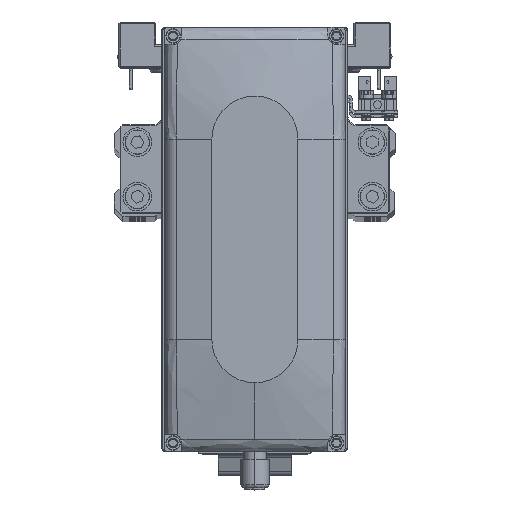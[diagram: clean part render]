
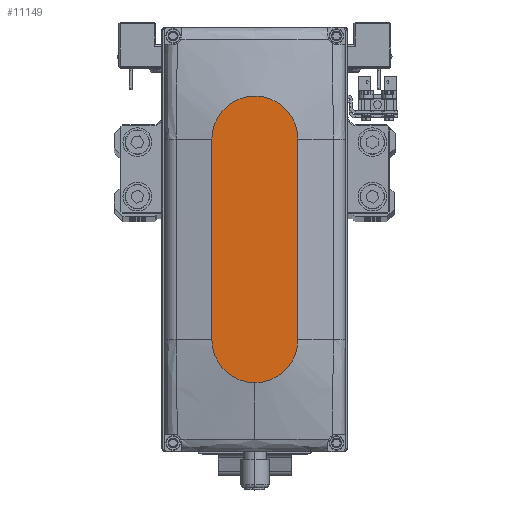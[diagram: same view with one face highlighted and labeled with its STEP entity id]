
A CAD part, top view. The second image highlights one B-rep face of the part: STEP entity #11149.
In plain terms, the highlighted planar face has unit normal (0, 0, 1).
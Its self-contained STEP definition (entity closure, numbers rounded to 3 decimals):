
#56 = ORIENTED_EDGE ( 'NONE', *, *, #27727, .T. ) ;
#1006 = CARTESIAN_POINT ( 'NONE',  ( -35., 0., 35. ) ) ;
#5470 = DIRECTION ( 'NONE',  ( 1., 0., 0. ) ) ;
#7653 = DIRECTION ( 'NONE',  ( 1., 0., 0. ) ) ;
#8587 = CARTESIAN_POINT ( 'NONE',  ( 35., 0., 35. ) ) ;
#9344 = DIRECTION ( 'NONE',  ( -1., 0., 0. ) ) ;
#10674 = AXIS2_PLACEMENT_3D ( 'NONE', #24600, #38210, #7653 ) ;
#11029 = PLANE ( 'NONE',  #10674 ) ;
#11149 = ADVANCED_FACE ( 'NONE', ( #41577 ), #11029, .T. ) ;
#11879 = CARTESIAN_POINT ( 'NONE',  ( -35., -15., 35. ) ) ;
#12424 = CARTESIAN_POINT ( 'NONE',  ( -35., 15., 35. ) ) ;
#14124 = CIRCLE ( 'NONE', #39065, 15. ) ;
#14600 = DIRECTION ( 'NONE',  ( 0., 0., 1. ) ) ;
#15534 = CARTESIAN_POINT ( 'NONE',  ( 35., -15., 35. ) ) ;
#15761 = AXIS2_PLACEMENT_3D ( 'NONE', #1006, #14600, #28174 ) ;
#15933 = CARTESIAN_POINT ( 'NONE',  ( 50., 0., 35. ) ) ;
#16116 = EDGE_CURVE ( 'NONE', #36877, #24570, #14124, .T. ) ;
#16809 = CIRCLE ( 'NONE', #22501, 15. ) ;
#17940 = EDGE_LOOP ( 'NONE', ( #39314, #31535, #38855, #21958, #56 ) ) ;
#21958 = ORIENTED_EDGE ( 'NONE', *, *, #16116, .T. ) ;
#22198 = DIRECTION ( 'NONE',  ( 0., 0., 1. ) ) ;
#22437 = CARTESIAN_POINT ( 'NONE',  ( 35., 0., 35. ) ) ;
#22501 = AXIS2_PLACEMENT_3D ( 'NONE', #22437, #36019, #5470 ) ;
#22926 = VECTOR ( 'NONE', #9344, 1000. ) ;
#24570 = VERTEX_POINT ( 'NONE', #15933 ) ;
#24600 = CARTESIAN_POINT ( 'NONE',  ( 0., 0., 35. ) ) ;
#25267 = VERTEX_POINT ( 'NONE', #34931 ) ;
#25398 = VERTEX_POINT ( 'NONE', #12424 ) ;
#25466 = DIRECTION ( 'NONE',  ( 1., 0., 0. ) ) ;
#26268 = LINE ( 'NONE', #39890, #22926 ) ;
#27727 = EDGE_CURVE ( 'NONE', #24570, #39658, #16809, .T. ) ;
#28174 = DIRECTION ( 'NONE',  ( 1., 0., 0. ) ) ;
#31535 = ORIENTED_EDGE ( 'NONE', *, *, #33479, .T. ) ;
#31756 = CARTESIAN_POINT ( 'NONE',  ( 35., 15., 35. ) ) ;
#33479 = EDGE_CURVE ( 'NONE', #25398, #25267, #34979, .T. ) ;
#34931 = CARTESIAN_POINT ( 'NONE',  ( -35., -15., 35. ) ) ;
#34979 = CIRCLE ( 'NONE', #15761, 15. ) ;
#35795 = DIRECTION ( 'NONE',  ( 1., 0., 0. ) ) ;
#36019 = DIRECTION ( 'NONE',  ( 0., 0., 1. ) ) ;
#36877 = VERTEX_POINT ( 'NONE', #15534 ) ;
#37225 = VECTOR ( 'NONE', #25466, 1000. ) ;
#38210 = DIRECTION ( 'NONE',  ( 0., 0., 1. ) ) ;
#38855 = ORIENTED_EDGE ( 'NONE', *, *, #42619, .T. ) ;
#39065 = AXIS2_PLACEMENT_3D ( 'NONE', #8587, #22198, #35795 ) ;
#39314 = ORIENTED_EDGE ( 'NONE', *, *, #41920, .T. ) ;
#39658 = VERTEX_POINT ( 'NONE', #31756 ) ;
#39890 = CARTESIAN_POINT ( 'NONE',  ( -35., 15., 35. ) ) ;
#41577 = FACE_OUTER_BOUND ( 'NONE', #17940, .T. ) ;
#41920 = EDGE_CURVE ( 'NONE', #39658, #25398, #26268, .T. ) ;
#42428 = LINE ( 'NONE', #11879, #37225 ) ;
#42619 = EDGE_CURVE ( 'NONE', #25267, #36877, #42428, .T. ) ;
